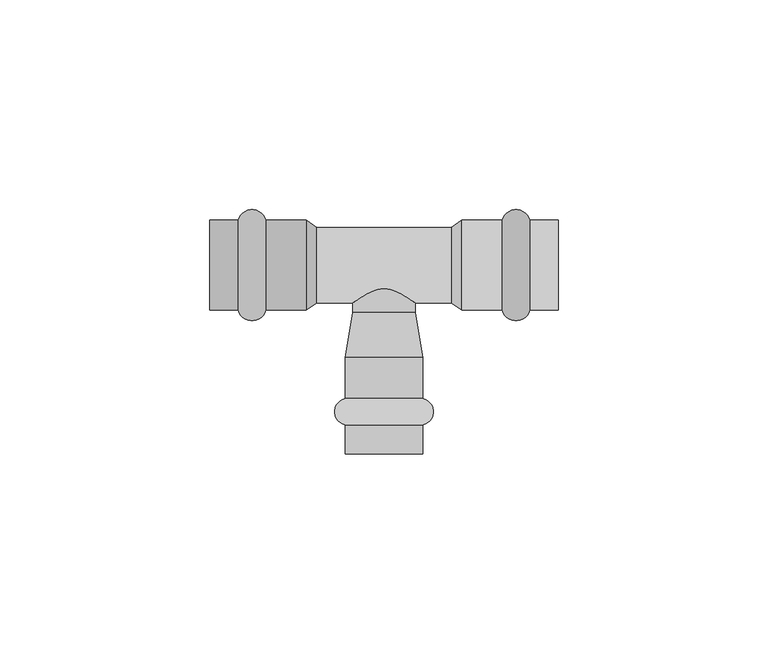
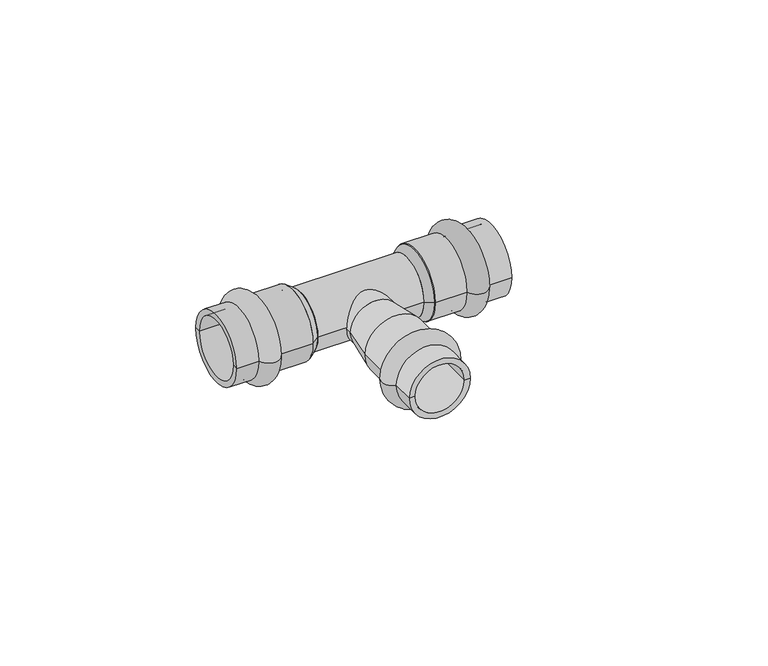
"""IFC4 building model written with IfcOpenShell, lengths in millimetres: pipe fitting geometry, VALTEC_VTi.931.I_Тройник_Ннержавеющая сталь : VTi.931.I."""

from ifc_helpers import new_model, si_unit, point, frame, origin, origin_2d, place, context, project, spatial, polyline, circle_curve, ellipse_curve, trimmed, segment, composite_curve, outline, extrude, source, transform, mapped, element, save
from ifc_brep_helpers import plane_surface, cylinder_surface, revolved_surface, advanced_brep


def pipe_fitting_1470a3df(model_context):
    return source(origin(), model_context, "Body", "SolidModel", [
        advanced_brep(
        [(9.25, -38.1122777, 0.0), (-9.25, -38.1122777, 0.0), (-9.25, -31.7877223, 0.0), (9.25, -31.7877223, 0.0), (9.25, -45.0, 0.0), (-9.25, -45.0, 0.0), (7.5, -45.0, 0.0), (-7.5, -45.0, 0.0), (7.5, -22.0, 0.0), (-7.5, -22.0, 0.0), (9.25, -22.0, 0.0), (-9.25, -22.0, 0.0)],
        [
            (0, 1, circle_curve(frame((0.0, -38.1122777, 0.0), z_axis=(0.0, 1.0, 0.0), x_axis=(-1.0, 0.0, 0.0)), 9.25)),
            (1, 2, circle_curve(frame((-8.5, -34.95, 0.0), z_axis=(0.0, 0.0, -1.0), x_axis=(0.0, 1.0, 0.0)), 3.25)),
            (2, 3, circle_curve(frame((0.0, -31.7877223, 0.0), z_axis=(0.0, -1.0, 0.0), x_axis=(-1.0, 0.0, 0.0)), 9.25)),
            (3, 0, circle_curve(frame((8.5, -34.95, 0.0), z_axis=(0.0, 0.0, -1.0), x_axis=(0.0, 1.0, 0.0)), 3.25)),
            (1, 0, circle_curve(frame((0.0, -38.1122777, 0.0), z_axis=(0.0, 1.0, 0.0), x_axis=(-1.0, 0.0, 0.0)), 9.25)),
            (3, 2, circle_curve(frame((0.0, -31.7877223, 0.0), z_axis=(0.0, -1.0, 0.0), x_axis=(-1.0, 0.0, 0.0)), 9.25)),
            (4, 5, circle_curve(frame((0.0, -45.0, 0.0), z_axis=(0.0, 1.0, 0.0), x_axis=(-1.0, 0.0, 0.0)), 9.25)),
            (5, 1),
            (0, 4),
            (5, 4, circle_curve(frame((0.0, -45.0, 0.0), z_axis=(0.0, 1.0, 0.0), x_axis=(-1.0, 0.0, 0.0)), 9.25)),
            (6, 7, circle_curve(frame((0.0, -45.0, 0.0), z_axis=(0.0, 1.0, 0.0), x_axis=(-1.0, 0.0, 0.0)), 7.5)),
            (7, 5),
            (4, 6),
            (7, 6, circle_curve(frame((0.0, -45.0, 0.0), z_axis=(0.0, 1.0, 0.0), x_axis=(-1.0, 0.0, 0.0)), 7.5)),
            (8, 9, circle_curve(frame((0.0, -22.0, 0.0), z_axis=(0.0, 1.0, 0.0), x_axis=(-1.0, 0.0, 0.0)), 7.5)),
            (9, 7),
            (6, 8),
            (9, 8, circle_curve(frame((0.0, -22.0, 0.0), z_axis=(0.0, 1.0, 0.0), x_axis=(-1.0, 0.0, 0.0)), 7.5)),
            (10, 11, circle_curve(frame((0.0, -22.0, 0.0), z_axis=(0.0, 1.0, 0.0), x_axis=(-1.0, 0.0, 0.0)), 9.25)),
            (11, 9),
            (8, 10),
            (11, 10, circle_curve(frame((0.0, -22.0, 0.0), z_axis=(0.0, 1.0, 0.0), x_axis=(-1.0, 0.0, 0.0)), 9.25)),
            (2, 11),
            (10, 3),
        ],
        [
            revolved_surface(trimmed(ellipse_curve(frame((-8.5, -34.95, 0.0), z_axis=(0.0, 0.0, 1.0), x_axis=(0.0, 1.0, 0.0)), 3.25, 3.25), [point((-9.25, -31.7877223, 0.0))], [point((-9.25, -38.1122777, 0.0))], True, "CARTESIAN"), (0.0, -48.5364426, 0.0), (0.0, -1.0, 0.0)),
            cylinder_surface(frame((0.0, -48.5364426, 0.0), z_axis=(0.0, -1.0, 0.0), x_axis=(-1.0, 0.0, 0.0)), 9.25),
            plane_surface(frame((0.0, -45.0, 0.0), z_axis=(0.0, -1.0, 0.0), x_axis=(-1.0, 0.0, 0.0))),
            revolved_surface(polyline([(-7.5, -45.0, 0.0), (-7.5, -22.0, 0.0)]), (0.0, -48.5364426, 0.0), (0.0, -1.0, 0.0)),
            plane_surface(frame((0.0, -22.0, 0.0), z_axis=(0.0, 1.0, 0.0), x_axis=(-1.0, 0.0, 0.0))),
        ],
        [
            (0, [[1, 2, 3, 4]]),
            (0, [[5, -4, 6, -2]]),
            (1, [[7, 8, -1, 9]]),
            (1, [[10, -9, -5, -8]]),
            (2, [[11, 12, -7, 13]]),
            (2, [[14, -13, -10, -12]]),
            (3, [[15, 16, -11, 17]]),
            (3, [[18, -17, -14, -16]]),
            (4, [[19, 20, -15, 21]]),
            (4, [[22, -21, -18, -20]]),
            (1, [[-3, 23, -19, 24]]),
            (1, [[-6, -24, -22, -23]]),
        ],
    ),
        advanced_brep(
        [(34.7287193, 10.75, 0.0), (34.7287193, -10.75, 0.0), (28.1712807, -10.75, 0.0), (28.1712807, 10.75, 0.0), (41.5, 10.75, 0.0), (41.5, -10.75, 0.0), (41.5, 9.0, 0.0), (41.5, -9.0, 0.0), (18.5, 9.0, 0.0), (18.5, -9.0, 0.0), (18.5, 10.75, 0.0), (18.5, -10.75, 0.0)],
        [
            (0, 1, circle_curve(frame((34.7287193, 0.0, 0.0), z_axis=(-1.0, 0.0, 0.0), x_axis=(0.0, -1.0, 0.0)), 10.75)),
            (1, 2, circle_curve(frame((31.45, -9.85, 0.0), z_axis=(0.0, 0.0, -1.0), x_axis=(-1.0, 0.0, 0.0)), 3.4)),
            (2, 3, circle_curve(frame((28.1712807, 0.0, 0.0), z_axis=(1.0, 0.0, 0.0), x_axis=(0.0, -1.0, 0.0)), 10.75)),
            (3, 0, circle_curve(frame((31.45, 9.85, 0.0), z_axis=(0.0, 0.0, -1.0), x_axis=(-1.0, 0.0, 0.0)), 3.4)),
            (1, 0, circle_curve(frame((34.7287193, 0.0, 0.0), z_axis=(-1.0, 0.0, 0.0), x_axis=(0.0, -1.0, 0.0)), 10.75)),
            (3, 2, circle_curve(frame((28.1712807, 0.0, 0.0), z_axis=(1.0, 0.0, 0.0), x_axis=(0.0, -1.0, 0.0)), 10.75)),
            (4, 5, circle_curve(frame((41.5, 0.0, 0.0), z_axis=(-1.0, 0.0, 0.0), x_axis=(0.0, -1.0, 0.0)), 10.75)),
            (5, 1),
            (0, 4),
            (5, 4, circle_curve(frame((41.5, 0.0, 0.0), z_axis=(-1.0, 0.0, 0.0), x_axis=(0.0, -1.0, 0.0)), 10.75)),
            (6, 7, circle_curve(frame((41.5, 0.0, 0.0), z_axis=(-1.0, 0.0, 0.0), x_axis=(0.0, -1.0, 0.0)), 9.0)),
            (7, 5),
            (4, 6),
            (7, 6, circle_curve(frame((41.5, 0.0, 0.0), z_axis=(-1.0, 0.0, 0.0), x_axis=(0.0, -1.0, 0.0)), 9.0)),
            (8, 9, circle_curve(frame((18.5, 0.0, 0.0), z_axis=(-1.0, 0.0, 0.0), x_axis=(0.0, -1.0, 0.0)), 9.0)),
            (9, 7),
            (6, 8),
            (9, 8, circle_curve(frame((18.5, 0.0, 0.0), z_axis=(-1.0, 0.0, 0.0), x_axis=(0.0, -1.0, 0.0)), 9.0)),
            (10, 11, circle_curve(frame((18.5, 0.0, 0.0), z_axis=(-1.0, 0.0, 0.0), x_axis=(0.0, -1.0, 0.0)), 10.75)),
            (11, 9),
            (8, 10),
            (11, 10, circle_curve(frame((18.5, 0.0, 0.0), z_axis=(-1.0, 0.0, 0.0), x_axis=(0.0, -1.0, 0.0)), 10.75)),
            (2, 11),
            (10, 3),
        ],
        [
            revolved_surface(trimmed(ellipse_curve(frame((31.45, -9.85, 0.0), z_axis=(0.0, 0.0, 1.0), x_axis=(-1.0, 0.0, 0.0)), 3.4, 3.4), [point((28.1712807, -10.75, 0.0))], [point((34.7287193, -10.75, 0.0))], True, "CARTESIAN"), (45.0364426, 0.0, 0.0), (1.0, 0.0, 0.0)),
            cylinder_surface(frame((45.0364426, 0.0, 0.0), z_axis=(1.0, 0.0, 0.0), x_axis=(0.0, -1.0, 0.0)), 10.75),
            plane_surface(frame((41.5, 0.0, 0.0), z_axis=(1.0, 0.0, 0.0), x_axis=(0.0, -1.0, 0.0))),
            revolved_surface(polyline([(41.5, -9.0, 0.0), (18.5, -9.0, 0.0)]), (45.0364426, 0.0, 0.0), (1.0, 0.0, 0.0)),
            plane_surface(frame((18.5, 0.0, 0.0), z_axis=(-1.0, 0.0, 0.0), x_axis=(0.0, -1.0, 0.0))),
        ],
        [
            (0, [[1, 2, 3, 4]]),
            (0, [[5, -4, 6, -2]]),
            (1, [[7, 8, -1, 9]]),
            (1, [[10, -9, -5, -8]]),
            (2, [[11, 12, -7, 13]]),
            (2, [[14, -13, -10, -12]]),
            (3, [[15, 16, -11, 17]]),
            (3, [[18, -17, -14, -16]]),
            (4, [[19, 20, -15, 21]]),
            (4, [[22, -21, -18, -20]]),
            (1, [[-3, 23, -19, 24]]),
            (1, [[-6, -24, -22, -23]]),
        ],
    ),
        advanced_brep(
        [(-34.7287193, -10.75, 0.0), (-34.7287193, 10.75, 0.0), (-28.1712807, 10.75, 0.0), (-28.1712807, -10.75, 0.0), (-41.5, -10.75, 0.0), (-41.5, 10.75, 0.0), (-41.5, -9.0, 0.0), (-41.5, 9.0, 0.0), (-18.5, -9.0, 0.0), (-18.5, 9.0, 0.0), (-18.5, -10.75, 0.0), (-18.5, 10.75, 0.0)],
        [
            (0, 1, circle_curve(frame((-34.7287193, 0.0, 0.0), z_axis=(1.0, 0.0, 0.0), x_axis=(0.0, 1.0, 0.0)), 10.75)),
            (1, 2, circle_curve(frame((-31.45, 9.85, 0.0), z_axis=(0.0, 0.0, -1.0), x_axis=(1.0, 0.0, 0.0)), 3.4)),
            (2, 3, circle_curve(frame((-28.1712807, 0.0, 0.0), z_axis=(-1.0, 0.0, 0.0), x_axis=(0.0, 1.0, 0.0)), 10.75)),
            (3, 0, circle_curve(frame((-31.45, -9.85, 0.0), z_axis=(0.0, 0.0, -1.0), x_axis=(1.0, 0.0, 0.0)), 3.4)),
            (1, 0, circle_curve(frame((-34.7287193, 0.0, 0.0), z_axis=(1.0, 0.0, 0.0), x_axis=(0.0, 1.0, 0.0)), 10.75)),
            (3, 2, circle_curve(frame((-28.1712807, 0.0, 0.0), z_axis=(-1.0, 0.0, 0.0), x_axis=(0.0, 1.0, 0.0)), 10.75)),
            (4, 5, circle_curve(frame((-41.5, 0.0, 0.0), z_axis=(1.0, 0.0, 0.0), x_axis=(0.0, 1.0, 0.0)), 10.75)),
            (5, 1),
            (0, 4),
            (5, 4, circle_curve(frame((-41.5, 0.0, 0.0), z_axis=(1.0, 0.0, 0.0), x_axis=(0.0, 1.0, 0.0)), 10.75)),
            (6, 7, circle_curve(frame((-41.5, 0.0, 0.0), z_axis=(1.0, 0.0, 0.0), x_axis=(0.0, 1.0, 0.0)), 9.0)),
            (7, 5),
            (4, 6),
            (7, 6, circle_curve(frame((-41.5, 0.0, 0.0), z_axis=(1.0, 0.0, 0.0), x_axis=(0.0, 1.0, 0.0)), 9.0)),
            (8, 9, circle_curve(frame((-18.5, 0.0, 0.0), z_axis=(1.0, 0.0, 0.0), x_axis=(0.0, 1.0, 0.0)), 9.0)),
            (9, 7),
            (6, 8),
            (9, 8, circle_curve(frame((-18.5, 0.0, 0.0), z_axis=(1.0, 0.0, 0.0), x_axis=(0.0, 1.0, 0.0)), 9.0)),
            (10, 11, circle_curve(frame((-18.5, 0.0, 0.0), z_axis=(1.0, 0.0, 0.0), x_axis=(0.0, 1.0, 0.0)), 10.75)),
            (11, 9),
            (8, 10),
            (11, 10, circle_curve(frame((-18.5, 0.0, 0.0), z_axis=(1.0, 0.0, 0.0), x_axis=(0.0, 1.0, 0.0)), 10.75)),
            (2, 11),
            (10, 3),
        ],
        [
            revolved_surface(trimmed(ellipse_curve(frame((-31.45, 9.85, 0.0), z_axis=(0.0, 0.0, 1.0), x_axis=(1.0, 0.0, 0.0)), 3.4, 3.4), [point((-28.1712807, 10.75, 0.0))], [point((-34.7287193, 10.75, 0.0))], True, "CARTESIAN"), (-45.0364426, 0.0, 0.0), (-1.0, 0.0, 0.0)),
            cylinder_surface(frame((-45.0364426, 0.0, 0.0), z_axis=(-1.0, 0.0, 0.0), x_axis=(0.0, 1.0, 0.0)), 10.75),
            plane_surface(frame((-41.5, 0.0, 0.0), z_axis=(-1.0, 0.0, 0.0), x_axis=(0.0, 1.0, 0.0))),
            revolved_surface(polyline([(-41.5, 9.0, 0.0), (-18.5, 9.0, 0.0)]), (-45.0364426, 0.0, 0.0), (-1.0, 0.0, 0.0)),
            plane_surface(frame((-18.5, 0.0, 0.0), z_axis=(1.0, 0.0, 0.0), x_axis=(0.0, 1.0, 0.0))),
        ],
        [
            (0, [[1, 2, 3, 4]]),
            (0, [[5, -4, 6, -2]]),
            (1, [[7, 8, -1, 9]]),
            (1, [[10, -9, -5, -8]]),
            (2, [[11, 12, -7, 13]]),
            (2, [[14, -13, -10, -12]]),
            (3, [[15, 16, -11, 17]]),
            (3, [[18, -17, -14, -16]]),
            (4, [[19, 20, -15, 21]]),
            (4, [[22, -21, -18, -20]]),
            (1, [[-3, 23, -19, 24]]),
            (1, [[-6, -24, -22, -23]]),
        ],
    ),
        extrude(outline(composite_curve([segment(trimmed(circle_curve(origin_2d(), 9.0), [point((-9.0, 0.0))], [point((9.0, 0.0))], False, "CARTESIAN"), True, "CONTINUOUS"), segment(trimmed(circle_curve(origin_2d(), 9.0), [point((9.0, 0.0))], [point((-9.0, 0.0))], False, "CARTESIAN"), True, "CONTINUOUS")], self_intersect=False)), frame((-16.0, 0.0, 0.0), z_axis=(1.0, 0.0, 0.0), x_axis=(0.0, 1.0, 0.0)), (0.0, 0.0, 1.0), 32.0),
        advanced_brep(
        [(-9.25, -22.0, 0.0), (9.25, -22.0, 0.0), (-7.5, -11.3209826, 0.0), (7.5, -11.3209826, 0.0)],
        [
            (0, 1, circle_curve(frame((0.0, -22.0, 0.0), z_axis=(0.0, -1.0, 0.0), x_axis=(-1.0, 0.0, 0.0)), 9.25)),
            (1, 0, circle_curve(frame((0.0, -22.0, 0.0), z_axis=(0.0, -1.0, 0.0), x_axis=(1.0, 0.0, 0.0)), 9.25)),
            (2, 3, circle_curve(frame((0.0, -11.3209826, 0.0), z_axis=(0.0, 1.0, 0.0), x_axis=(1.0, 0.0, 0.0)), 7.5)),
            (3, 2, circle_curve(frame((0.0, -11.3209826, 0.0), z_axis=(0.0, 1.0, 0.0), x_axis=(-1.0, 0.0, 0.0)), 7.5)),
            (3, 1),
            (0, 2),
        ],
        [
            plane_surface(frame((0.0, -22.0, 0.0), z_axis=(0.0, -1.0, 0.0), x_axis=(0.0, 0.0, 1.0))),
            plane_surface(frame((0.0, -11.3209826, 0.0), z_axis=(0.0, 1.0, 0.0), x_axis=(0.0, 0.0, 1.0))),
            revolved_surface(polyline([(7.500000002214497, -11.3209826, 0.0), (9.25, -22.0, 0.0)]), (0.0, 34.4462349, 0.0), (0.0, -1.0, 0.0)),
            revolved_surface(polyline([(-7.500000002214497, -11.3209826, 0.0), (-9.25, -22.0, 0.0)]), (0.0, 34.4462349, 0.0), (0.0, -1.0, 0.0)),
        ],
        [
            (0, [[1, 2]]),
            (1, [[3, 4]]),
            (2, [[-4, 5, -1, 6]]),
            (3, [[-3, -6, -2, -5]]),
        ],
    ),
        extrude(outline(composite_curve([segment(trimmed(circle_curve(origin_2d(), 7.5), [point((0.0, -7.5))], [point((0.0, 7.5))], False, "CARTESIAN"), True, "CONTINUOUS"), segment(trimmed(circle_curve(origin_2d(), 7.5), [point((0.0, 7.5))], [point((0.0, -7.5))], False, "CARTESIAN"), True, "CONTINUOUS")], self_intersect=False)), frame((0.0, -11.3209826, 0.0), z_axis=(0.0, 1.0, 0.0), x_axis=(0.0, 0.0, 1.0)), (0.0, 0.0, 1.0), 11.3209826),
        advanced_brep(
        [(18.5, -10.75, 0.0), (18.5, 10.75, 0.0), (16.0, -9.0, 0.0), (16.0, 9.0, 0.0)],
        [
            (0, 1, circle_curve(frame((18.5, 0.0, 0.0), z_axis=(1.0, 0.0, 0.0), x_axis=(0.0, -1.0, 0.0)), 10.75)),
            (1, 0, circle_curve(frame((18.5, 0.0, 0.0), z_axis=(1.0, 0.0, 0.0), x_axis=(0.0, 1.0, 0.0)), 10.75)),
            (2, 3, circle_curve(frame((16.0, 0.0, 0.0), z_axis=(-1.0, 0.0, 0.0), x_axis=(0.0, 1.0, 0.0)), 9.0)),
            (3, 2, circle_curve(frame((16.0, 0.0, 0.0), z_axis=(-1.0, 0.0, 0.0), x_axis=(0.0, -1.0, 0.0)), 9.0)),
            (3, 1),
            (0, 2),
        ],
        [
            plane_surface(frame((18.5, 0.0, 0.0), z_axis=(1.0, 0.0, 0.0), x_axis=(0.0, 0.0, 1.0))),
            plane_surface(frame((16.0, 0.0, 0.0), z_axis=(-1.0, 0.0, 0.0), x_axis=(0.0, 0.0, 1.0))),
            revolved_surface(polyline([(16.0, 9.000000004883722, 0.0), (18.5, 10.75, 0.0)]), (3.1428571, 0.0, 0.0), (1.0, 0.0, 0.0)),
            revolved_surface(polyline([(16.0, -9.000000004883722, 0.0), (18.5, -10.75, 0.0)]), (3.1428571, 0.0, 0.0), (1.0, 0.0, 0.0)),
        ],
        [
            (0, [[1, 2]]),
            (1, [[3, 4]]),
            (2, [[-4, 5, -1, 6]]),
            (3, [[-3, -6, -2, -5]]),
        ],
    ),
        advanced_brep(
        [(-18.5, -10.75, 0.0), (-18.5, 10.75, 0.0), (-16.0, -9.0, 0.0), (-16.0, 9.0, 0.0)],
        [
            (0, 1, circle_curve(frame((-18.5, 0.0, 0.0), z_axis=(-1.0, 0.0, 0.0), x_axis=(0.0, -1.0, 0.0)), 10.75)),
            (1, 0, circle_curve(frame((-18.5, 0.0, 0.0), z_axis=(-1.0, 0.0, 0.0), x_axis=(0.0, 1.0, 0.0)), 10.75)),
            (2, 3, circle_curve(frame((-16.0, 0.0, 0.0), z_axis=(1.0, 0.0, 0.0), x_axis=(0.0, 1.0, 0.0)), 9.0)),
            (3, 2, circle_curve(frame((-16.0, 0.0, 0.0), z_axis=(1.0, 0.0, 0.0), x_axis=(0.0, -1.0, 0.0)), 9.0)),
            (2, 0),
            (1, 3),
        ],
        [
            plane_surface(frame((-18.5, 0.0, 0.0), z_axis=(-1.0, 0.0, 0.0), x_axis=(0.0, 0.0, -1.0))),
            plane_surface(frame((-16.0, 0.0, 0.0), z_axis=(1.0, 0.0, 0.0), x_axis=(0.0, 0.0, -1.0))),
            revolved_surface(polyline([(-16.0, -9.000000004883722, 0.0), (-18.5, -10.75, 0.0)]), (-3.1428571, 0.0, 0.0), (-1.0, 0.0, 0.0)),
            revolved_surface(polyline([(-16.0, 9.000000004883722, 0.0), (-18.5, 10.75, 0.0)]), (-3.1428571, 0.0, 0.0), (-1.0, 0.0, 0.0)),
        ],
        [
            (0, [[1, 2]]),
            (1, [[3, 4]]),
            (2, [[-3, 5, -2, 6]]),
            (3, [[-4, -6, -1, -5]]),
        ],
    ),
    ])


if __name__ == "__main__":
    model = new_model("IFC4")
    model_context = context("Model", 3, world=origin())
    ifc_project = project(units=[si_unit("LENGTHUNIT", "METRE", prefix="MILLI")], contexts=[model_context])
    site = spatial("IfcSite", under=ifc_project)
    building = spatial("IfcBuilding", under=site)
    placement = place(None, origin())
    pipe_fitting_shape = pipe_fitting_1470a3df(model_context)
    element("IfcPipeFitting", 1, ObjectType="VALTEC_VTi.931.I_Тройник_Ннержавеющая сталь : VTi.931.I", at=placement, inside=building, context=model_context, shape_type="MappedRepresentation", body=[
        mapped(pipe_fitting_shape, transform((0.0, 0.0, 0.0), x_axis=(1.0, 0.0, 0.0), y_axis=(0.0, 1.0, 0.0), z_axis=(0.0, 0.0, 1.0))),
    ])
    save(model, "model.ifc")
